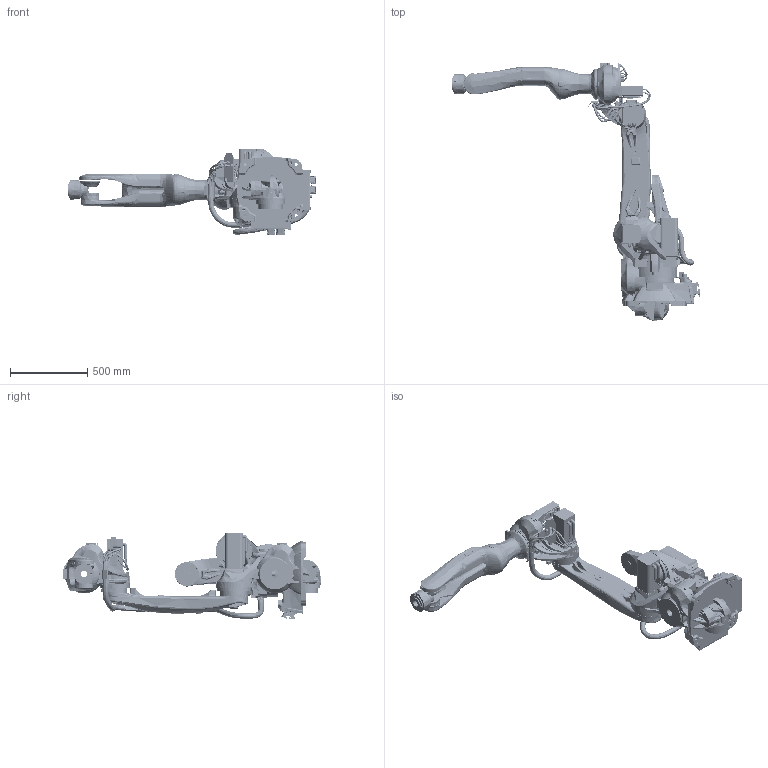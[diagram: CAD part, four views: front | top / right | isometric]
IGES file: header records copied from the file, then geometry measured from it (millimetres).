
Start section: SolidWorks IGES file using analytic representation for surfaces
Global section: file name: R:\RD\PME\SOLIDWK\CR82480000\CR82485700\S-13-1.9.IGS; native system: SolidWorks 2023; preprocessor: SolidWorks 2023; author: F92950A; date: 240507.180340; units: millimetre
Bounding box: 1605.49 x 1664 x 561.49 mm (x, y, z)
Volume: 87705363 mm3; surface area: 6993350.9 mm2
Topology: 66 solids, 135 shells, 10613 faces, 26516 edges, 16052 vertices
Faces by surface type: revolution 4609, plane 3038, bspline 2966
